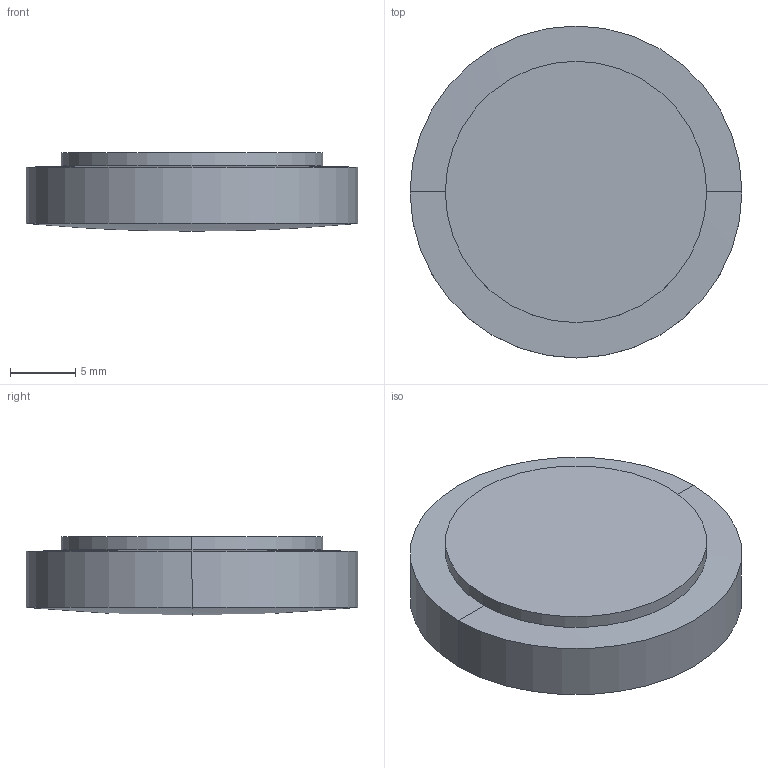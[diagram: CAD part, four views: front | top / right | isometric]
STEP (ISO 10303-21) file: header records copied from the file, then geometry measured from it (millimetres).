
FILE_DESCRIPTION(('STEP AP214'),'1');
FILE_NAME('LLU-25240.STEP','2020-03-09T17:42:10',(' '),(' '),'Spatial InterOp 3D',' ',' ');
FILE_SCHEMA(('AUTOMOTIVE_DESIGN { 1 0 10303 214 1 1 1 1 }'));
Length unit declared in the file: millimetre
Products named in the file (1): 1
Bounding box: 25.4 x 25.4 x 6 mm (x, y, z)
Volume: 2674 mm3; surface area: 2049.9 mm2
Topology: 2 solids, 2 shells, 10 faces, 20 edges, 10 vertices
Faces by surface type: sphere 4, cylinder 4, plane 2
Entity records: 255 total; most frequent: DIRECTION 52, CARTESIAN_POINT 38, ORIENTED_EDGE 32, AXIS2_PLACEMENT_3D 24, EDGE_CURVE 16, CIRCLE 12, ADVANCED_FACE 10, FACE_OUTER_BOUND 10
